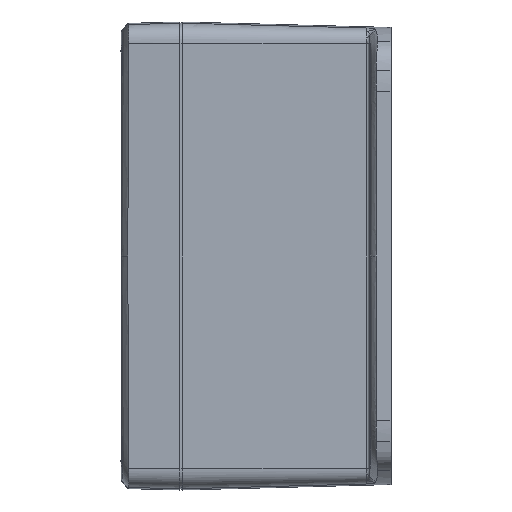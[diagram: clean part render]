
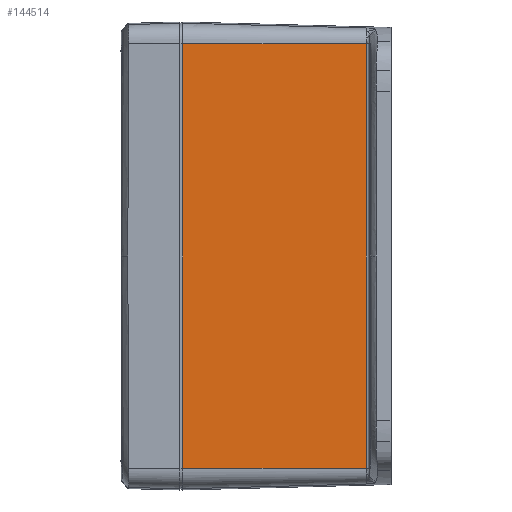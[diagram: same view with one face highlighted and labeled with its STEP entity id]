
A CAD part, left-side view. The second image highlights one B-rep face of the part: STEP entity #144514.
In plain terms, the highlighted planar face has unit normal (-1, -0.026, 0).
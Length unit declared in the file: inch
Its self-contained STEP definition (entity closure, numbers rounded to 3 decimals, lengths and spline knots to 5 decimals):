
#295 = VECTOR ( 'NONE', #49242, 39.37008 ) ;
#7876 = ORIENTED_EDGE ( 'NONE', *, *, #14864, .F. ) ;
#14864 = EDGE_CURVE ( 'NONE', #144813, #139363, #151814, .T. ) ;
#15564 = VECTOR ( 'NONE', #111787, 39.37008 ) ;
#15656 = EDGE_LOOP ( 'NONE', ( #64153, #138214, #7876, #57349 ) ) ;
#16891 = AXIS2_PLACEMENT_3D ( 'NONE', #129346, #101649, #56762 ) ;
#45962 = LINE ( 'NONE', #166891, #102120 ) ;
#47392 = CARTESIAN_POINT ( 'NONE',  ( -3.81594, 0.3035, -2.60995 ) ) ;
#49139 = VECTOR ( 'NONE', #156279, 39.37008 ) ;
#49242 = DIRECTION ( 'NONE',  ( 0., 0., 1. ) ) ;
#56762 = DIRECTION ( 'NONE',  ( 0.026, -1., 0. ) ) ;
#57349 = ORIENTED_EDGE ( 'NONE', *, *, #155017, .F. ) ;
#64153 = ORIENTED_EDGE ( 'NONE', *, *, #65139, .T. ) ;
#65139 = EDGE_CURVE ( 'NONE', #167458, #179238, #45962, .T. ) ;
#85455 = PLANE ( 'NONE',  #16891 ) ;
#88675 = EDGE_CURVE ( 'NONE', #179238, #139363, #136157, .T. ) ;
#89648 = CARTESIAN_POINT ( 'NONE',  ( -3.81594, 0.3035, -2.60995 ) ) ;
#94053 = CARTESIAN_POINT ( 'NONE',  ( -3.81594, 0.3035, 2.60995 ) ) ;
#101649 = DIRECTION ( 'NONE',  ( -1., -0.026, 0. ) ) ;
#102120 = VECTOR ( 'NONE', #162425, 39.37008 ) ;
#111787 = DIRECTION ( 'NONE',  ( 0., 0., 1. ) ) ;
#114612 = CARTESIAN_POINT ( 'NONE',  ( -3.875, 2.55875, -2.60995 ) ) ;
#129346 = CARTESIAN_POINT ( 'NONE',  ( -3.875, 2.55875, -2.60995 ) ) ;
#136157 = LINE ( 'NONE', #47392, #295 ) ;
#137508 = CARTESIAN_POINT ( 'NONE',  ( -3.875, 2.55875, 2.60995 ) ) ;
#138214 = ORIENTED_EDGE ( 'NONE', *, *, #88675, .T. ) ;
#139363 = VERTEX_POINT ( 'NONE', #94053 ) ;
#144514 = ADVANCED_FACE ( 'Face2', ( #175086 ), #85455, .T. ) ;
#144813 = VERTEX_POINT ( 'NONE', #154934 ) ;
#151814 = LINE ( 'NONE', #137508, #49139 ) ;
#154934 = CARTESIAN_POINT ( 'NONE',  ( -3.875, 2.55875, 2.60995 ) ) ;
#155017 = EDGE_CURVE ( 'NONE', #167458, #144813, #159380, .T. ) ;
#156279 = DIRECTION ( 'NONE',  ( 0.026, -1., 0. ) ) ;
#158447 = CARTESIAN_POINT ( 'NONE',  ( -3.875, 2.55875, -2.60995 ) ) ;
#159380 = LINE ( 'NONE', #158447, #15564 ) ;
#162425 = DIRECTION ( 'NONE',  ( 0.026, -1., 0. ) ) ;
#166891 = CARTESIAN_POINT ( 'NONE',  ( -3.875, 2.55875, -2.60995 ) ) ;
#167458 = VERTEX_POINT ( 'NONE', #114612 ) ;
#175086 = FACE_OUTER_BOUND ( 'NONE', #15656, .T. ) ;
#179238 = VERTEX_POINT ( 'NONE', #89648 ) ;
